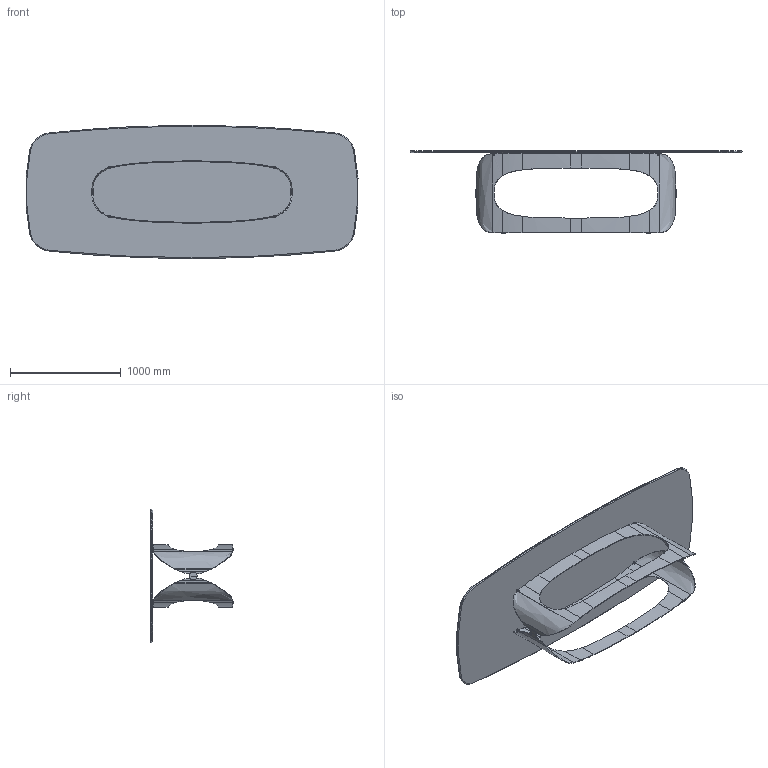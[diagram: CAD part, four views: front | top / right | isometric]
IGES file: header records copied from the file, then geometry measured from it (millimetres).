
Start section: SolidWorks IGES file using analytic representation for surfaces
Global section: file name: Y:\eforma\TECNICO\SOLIDWORKS\E-FORMA\1-TAVOLI\POLIFEMO\02 parts\PO44C_Polifemo_300x120_.IGS; native system: SolidWorks 2022; preprocessor: SolidWorks 2022; author: eforma.tech; date: 240806.161904; units: millimetre
Bounding box: 2991.72 x 740.97 x 1200 mm (x, y, z)
Volume: 62656438.4 mm3; surface area: 16717284.3 mm2
Topology: 25 solids, 25 shells, 597 faces, 1489 edges, 948 vertices
Faces by surface type: revolution 292, plane 153, bspline 152
